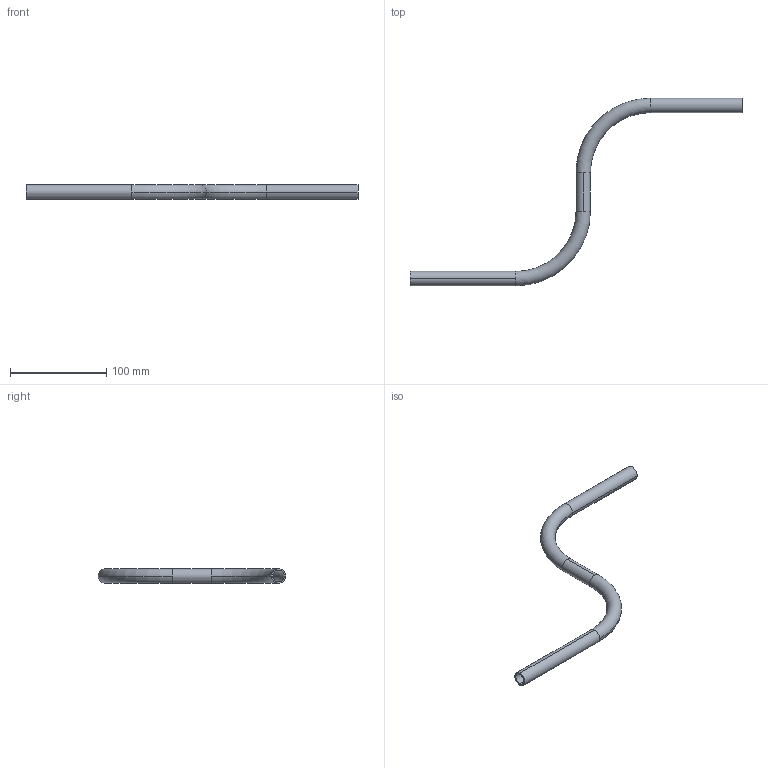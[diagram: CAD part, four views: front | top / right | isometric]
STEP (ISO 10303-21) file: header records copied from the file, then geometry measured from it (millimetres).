
FILE_DESCRIPTION (( 'STEP AP203' ), '1' );
FILE_NAME ('059.015.104.STEP', '2016-10-19T13:12:24', ( 'Utente' ), ( '' ), 'SwSTEP 2.0', 'SolidWorks 2016', '' );
FILE_SCHEMA (( 'CONFIG_CONTROL_DESIGN' ));
Length unit declared in the file: millimetre
Products named in the file (1): 059.015.104
Bounding box: 345 x 195 x 15 mm (x, y, z)
Volume: 29576.4 mm3; surface area: 39562.4 mm2
Topology: 1 solids, 1 shells, 22 faces, 56 edges, 36 vertices
Faces by surface type: cylinder 12, torus 8, plane 2
Entity records: 773 total; most frequent: DIRECTION 146, CARTESIAN_POINT 115, ORIENTED_EDGE 112, AXIS2_PLACEMENT_3D 67, EDGE_CURVE 56, CIRCLE 44, VERTEX_POINT 36, EDGE_LOOP 24
